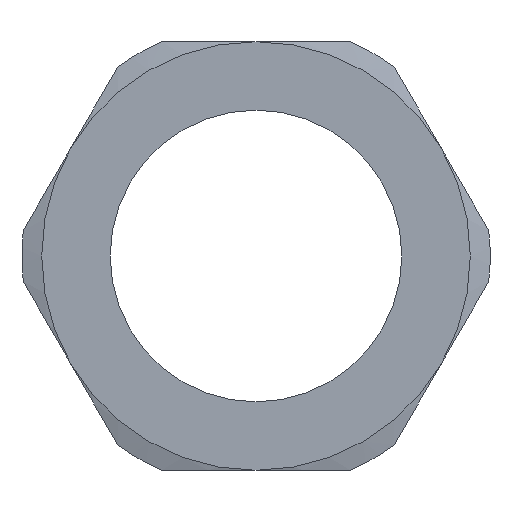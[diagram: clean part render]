
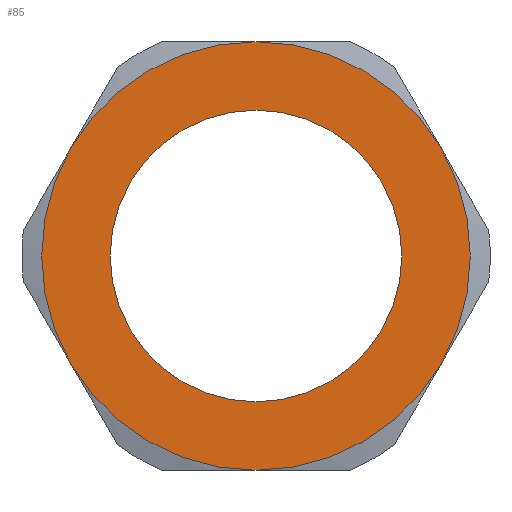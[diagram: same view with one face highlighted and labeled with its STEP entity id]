
A CAD part, left-side view. The second image highlights one B-rep face of the part: STEP entity #85.
In plain terms, the highlighted planar face has unit normal (-1, 0, 0).
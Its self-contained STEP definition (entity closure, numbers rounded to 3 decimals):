
#85 = ADVANCED_FACE( '', ( #123, #124 ), #125, .F. );
#123 = FACE_OUTER_BOUND( '', #180, .T. );
#124 = FACE_BOUND( '', #181, .T. );
#125 = PLANE( '', #182 );
#180 = EDGE_LOOP( '', ( #297, #298, #299, #300, #301, #302 ) );
#181 = EDGE_LOOP( '', ( #303 ) );
#182 = AXIS2_PLACEMENT_3D( '', #304, #305, #306 );
#297 = ORIENTED_EDGE( '', *, *, #459, .F. );
#298 = ORIENTED_EDGE( '', *, *, #461, .F. );
#299 = ORIENTED_EDGE( '', *, *, #462, .F. );
#300 = ORIENTED_EDGE( '', *, *, #463, .F. );
#301 = ORIENTED_EDGE( '', *, *, #455, .F. );
#302 = ORIENTED_EDGE( '', *, *, #457, .F. );
#303 = ORIENTED_EDGE( '', *, *, #464, .T. );
#304 = CARTESIAN_POINT( '', ( 0., 0., 0. ) );
#305 = DIRECTION( '', ( 1., 0., 0. ) );
#306 = DIRECTION( '', ( 0., 0., -1. ) );
#455 = EDGE_CURVE( '', #493, #548, #549, .T. );
#457 = EDGE_CURVE( '', #543, #493, #551, .T. );
#459 = EDGE_CURVE( '', #534, #543, #553, .T. );
#461 = EDGE_CURVE( '', #513, #534, #555, .T. );
#462 = EDGE_CURVE( '', #525, #513, #556, .T. );
#463 = EDGE_CURVE( '', #548, #525, #557, .T. );
#464 = EDGE_CURVE( '', #558, #558, #559, .T. );
#493 = VERTEX_POINT( '', #601 );
#513 = VERTEX_POINT( '', #641 );
#525 = VERTEX_POINT( '', #667 );
#534 = VERTEX_POINT( '', #687 );
#543 = VERTEX_POINT( '', #707 );
#548 = VERTEX_POINT( '', #718 );
#549 = CIRCLE( '', #719, 13.5 );
#551 = CIRCLE( '', #724, 13.5 );
#553 = CIRCLE( '', #726, 13.5 );
#555 = CIRCLE( '', #728, 13.5 );
#556 = CIRCLE( '', #729, 13.5 );
#557 = CIRCLE( '', #730, 13.5 );
#558 = VERTEX_POINT( '', #731 );
#559 = CIRCLE( '', #732, 9.188 );
#601 = CARTESIAN_POINT( '', ( 0., 0., 13.5 ) );
#641 = CARTESIAN_POINT( '', ( 0., 0., -13.5 ) );
#667 = CARTESIAN_POINT( '', ( 0., -11.691, -6.75 ) );
#687 = CARTESIAN_POINT( '', ( 0., 11.691, -6.75 ) );
#707 = CARTESIAN_POINT( '', ( 0., 11.691, 6.75 ) );
#718 = CARTESIAN_POINT( '', ( 0., -11.691, 6.75 ) );
#719 = AXIS2_PLACEMENT_3D( '', #787, #788, #789 );
#724 = AXIS2_PLACEMENT_3D( '', #790, #791, #792 );
#726 = AXIS2_PLACEMENT_3D( '', #796, #797, #798 );
#728 = AXIS2_PLACEMENT_3D( '', #802, #803, #804 );
#729 = AXIS2_PLACEMENT_3D( '', #805, #806, #807 );
#730 = AXIS2_PLACEMENT_3D( '', #808, #809, #810 );
#731 = CARTESIAN_POINT( '', ( 0., 0., -9.188 ) );
#732 = AXIS2_PLACEMENT_3D( '', #811, #812, #813 );
#787 = CARTESIAN_POINT( '', ( 0., 0., 0. ) );
#788 = DIRECTION( '', ( 1., 0., 0. ) );
#789 = DIRECTION( '', ( 0., 0., -1. ) );
#790 = CARTESIAN_POINT( '', ( 0., 0., 0. ) );
#791 = DIRECTION( '', ( 1., 0., 0. ) );
#792 = DIRECTION( '', ( 0., 0., -1. ) );
#796 = CARTESIAN_POINT( '', ( 0., 0., 0. ) );
#797 = DIRECTION( '', ( 1., 0., 0. ) );
#798 = DIRECTION( '', ( 0., 0., -1. ) );
#802 = CARTESIAN_POINT( '', ( 0., 0., 0. ) );
#803 = DIRECTION( '', ( 1., 0., 0. ) );
#804 = DIRECTION( '', ( 0., 0., -1. ) );
#805 = CARTESIAN_POINT( '', ( 0., 0., 0. ) );
#806 = DIRECTION( '', ( 1., 0., 0. ) );
#807 = DIRECTION( '', ( 0., 0., -1. ) );
#808 = CARTESIAN_POINT( '', ( 0., 0., 0. ) );
#809 = DIRECTION( '', ( 1., 0., 0. ) );
#810 = DIRECTION( '', ( 0., 0., -1. ) );
#811 = CARTESIAN_POINT( '', ( 0., 0., 0. ) );
#812 = DIRECTION( '', ( 1., 0., 0. ) );
#813 = DIRECTION( '', ( 0., 0., -1. ) );
